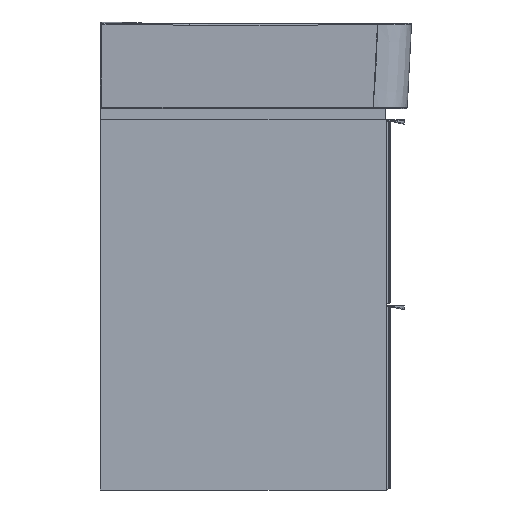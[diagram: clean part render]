
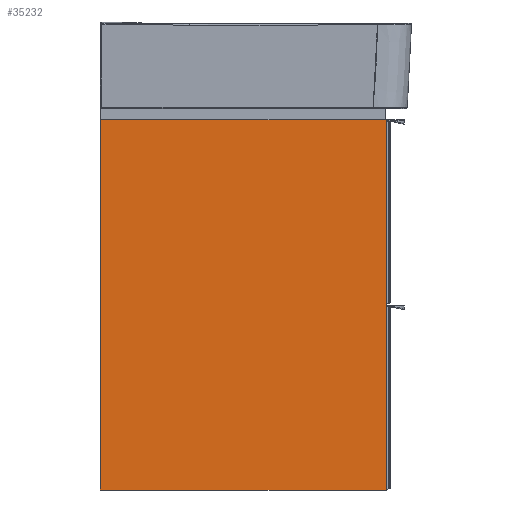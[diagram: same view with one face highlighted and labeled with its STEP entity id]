
A CAD part, left-side view. The second image highlights one B-rep face of the part: STEP entity #35232.
In plain terms, the highlighted planar face has unit normal (-1, 0, 0).
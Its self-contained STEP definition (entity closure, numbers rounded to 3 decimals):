
#2124=PLANE('',#39589);
#5376=LINE('',#124862,#8425);
#5380=LINE('',#124869,#8429);
#5383=LINE('',#124875,#8432);
#5385=LINE('',#124878,#8434);
#8425=VECTOR('',#48267,1.);
#8429=VECTOR('',#48273,1.);
#8432=VECTOR('',#48278,1.);
#8434=VECTOR('',#48282,1.);
#11592=FACE_OUTER_BOUND('',#13486,.T.);
#13486=EDGE_LOOP('',(#33245,#33246,#33247,#33248));
#19161=VERTEX_POINT('',#124859);
#19162=VERTEX_POINT('',#124861);
#19164=VERTEX_POINT('',#124867);
#19166=VERTEX_POINT('',#124873);
#24584=EDGE_CURVE('',#19162,#19161,#5376,.T.);
#24588=EDGE_CURVE('',#19161,#19164,#5380,.T.);
#24591=EDGE_CURVE('',#19164,#19166,#5383,.T.);
#24593=EDGE_CURVE('',#19166,#19162,#5385,.T.);
#33245=ORIENTED_EDGE('',*,*,#24593,.T.);
#33246=ORIENTED_EDGE('',*,*,#24584,.T.);
#33247=ORIENTED_EDGE('',*,*,#24588,.T.);
#33248=ORIENTED_EDGE('',*,*,#24591,.T.);
#35232=ADVANCED_FACE('',(#11592),#2124,.F.);
#39589=AXIS2_PLACEMENT_3D('',#124880,#48285,#48286);
#48267=DIRECTION('',(0.,0.,1.));
#48273=DIRECTION('',(0.,1.,0.));
#48278=DIRECTION('',(0.,0.,-1.));
#48282=DIRECTION('',(0.,-1.,0.));
#48285=DIRECTION('center_axis',(1.,0.,0.));
#48286=DIRECTION('ref_axis',(0.,0.,-1.));
#124859=CARTESIAN_POINT('',(6115.006,-4994.103,-90.948));
#124861=CARTESIAN_POINT('',(6115.006,-4994.103,-590.948));
#124862=CARTESIAN_POINT('',(6115.006,-4994.103,-590.948));
#124867=CARTESIAN_POINT('',(6115.006,-4608.103,-90.948));
#124869=CARTESIAN_POINT('',(6115.006,-4994.103,-90.948));
#124873=CARTESIAN_POINT('',(6115.006,-4608.103,-590.948));
#124875=CARTESIAN_POINT('',(6115.006,-4608.103,-90.948));
#124878=CARTESIAN_POINT('',(6115.006,-4608.103,-590.948));
#124880=CARTESIAN_POINT('Origin',(6115.006,-4801.103,-340.948));
